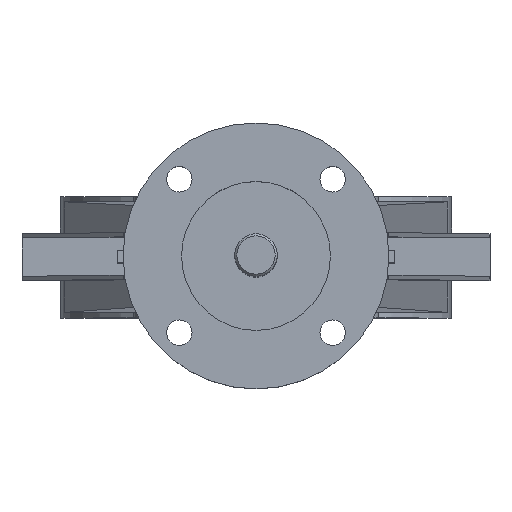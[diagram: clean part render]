
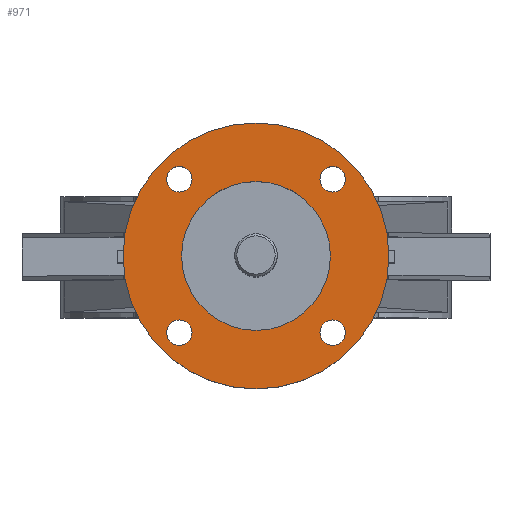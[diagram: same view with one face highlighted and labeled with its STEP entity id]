
A CAD part, top view. The second image highlights one B-rep face of the part: STEP entity #971.
In plain terms, the highlighted planar face has unit normal (0, 0, 1).
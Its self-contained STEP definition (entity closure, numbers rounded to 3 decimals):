
#971=ADVANCED_FACE('',(#2228,#2230,#2232,#2234,#2236,#2238),#2240,.T.);
#2228=FACE_BOUND('',#2229,.T.);
#2229=EDGE_LOOP('',(#3260));
#2230=FACE_BOUND('',#2231,.T.);
#2231=EDGE_LOOP('',(#3261));
#2232=FACE_BOUND('',#2233,.T.);
#2233=EDGE_LOOP('',(#3262));
#2234=FACE_BOUND('',#2235,.T.);
#2235=EDGE_LOOP('',(#3263));
#2236=FACE_BOUND('',#2237,.T.);
#2237=EDGE_LOOP('',(#3264));
#2238=FACE_BOUND('',#2239,.T.);
#2239=EDGE_LOOP('',(#3265));
#2240=PLANE('',#2241);
#2241=AXIS2_PLACEMENT_3D('',#2242,#2243,#2244);
#2242=CARTESIAN_POINT('',(0.,0.,428.));
#2243=DIRECTION('',(0.,0.,1.));
#2244=DIRECTION('',(-1.,0.,0.));
#3260=ORIENTED_EDGE('',*,*,#3659,.T.);
#3261=ORIENTED_EDGE('',*,*,#3660,.T.);
#3262=ORIENTED_EDGE('',*,*,#3661,.T.);
#3263=ORIENTED_EDGE('',*,*,#3662,.T.);
#3264=ORIENTED_EDGE('',*,*,#3804,.T.);
#3265=ORIENTED_EDGE('',*,*,#3663,.T.);
#3659=EDGE_CURVE('',#4222,#4222,#4223,.T.);
#3660=EDGE_CURVE('',#4224,#4224,#4225,.F.);
#3661=EDGE_CURVE('',#4226,#4226,#4227,.F.);
#3662=EDGE_CURVE('',#4228,#4228,#4229,.F.);
#3663=EDGE_CURVE('',#4230,#4230,#4231,.F.);
#3804=EDGE_CURVE('',#4467,#4467,#4468,.F.);
#4222=VERTEX_POINT('',#5384);
#4223=CIRCLE('',#5385,62.5);
#4224=VERTEX_POINT('',#5389);
#4225=CIRCLE('',#5390,6.);
#4226=VERTEX_POINT('',#5394);
#4227=CIRCLE('',#5395,6.);
#4228=VERTEX_POINT('',#5399);
#4229=CIRCLE('',#5400,6.);
#4230=VERTEX_POINT('',#5404);
#4231=CIRCLE('',#5405,6.);
#4467=VERTEX_POINT('',#5988);
#4468=CIRCLE('',#5989,35.);
#5384=CARTESIAN_POINT('',(-62.5,0.,428.));
#5385=AXIS2_PLACEMENT_3D('',#5386,#5387,#5388);
#5386=CARTESIAN_POINT('',(0.,0.,428.));
#5387=DIRECTION('',(0.,0.,1.));
#5388=DIRECTION('',(-1.,0.,0.));
#5389=CARTESIAN_POINT('',(-42.062,-36.062,428.));
#5390=AXIS2_PLACEMENT_3D('',#5391,#5392,#5393);
#5391=CARTESIAN_POINT('',(-36.062,-36.062,428.));
#5392=DIRECTION('',(0.,0.,1.));
#5393=DIRECTION('',(-1.,0.,0.));
#5394=CARTESIAN_POINT('',(36.062,-42.062,428.));
#5395=AXIS2_PLACEMENT_3D('',#5396,#5397,#5398);
#5396=CARTESIAN_POINT('',(36.062,-36.062,428.));
#5397=DIRECTION('',(0.,0.,1.));
#5398=DIRECTION('',(0.,-1.,0.));
#5399=CARTESIAN_POINT('',(42.062,36.062,428.));
#5400=AXIS2_PLACEMENT_3D('',#5401,#5402,#5403);
#5401=CARTESIAN_POINT('',(36.062,36.062,428.));
#5402=DIRECTION('',(0.,0.,1.));
#5403=DIRECTION('',(1.,0.,-0.));
#5404=CARTESIAN_POINT('',(-36.062,42.062,428.));
#5405=AXIS2_PLACEMENT_3D('',#5406,#5407,#5408);
#5406=CARTESIAN_POINT('',(-36.062,36.062,428.));
#5407=DIRECTION('',(0.,0.,1.));
#5408=DIRECTION('',(0.,1.,0.));
#5988=CARTESIAN_POINT('',(0.,35.,428.));
#5989=AXIS2_PLACEMENT_3D('',#5990,#5991,#5992);
#5990=CARTESIAN_POINT('',(0.,0.,428.));
#5991=DIRECTION('',(0.,0.,1.));
#5992=DIRECTION('',(0.,1.,0.));
